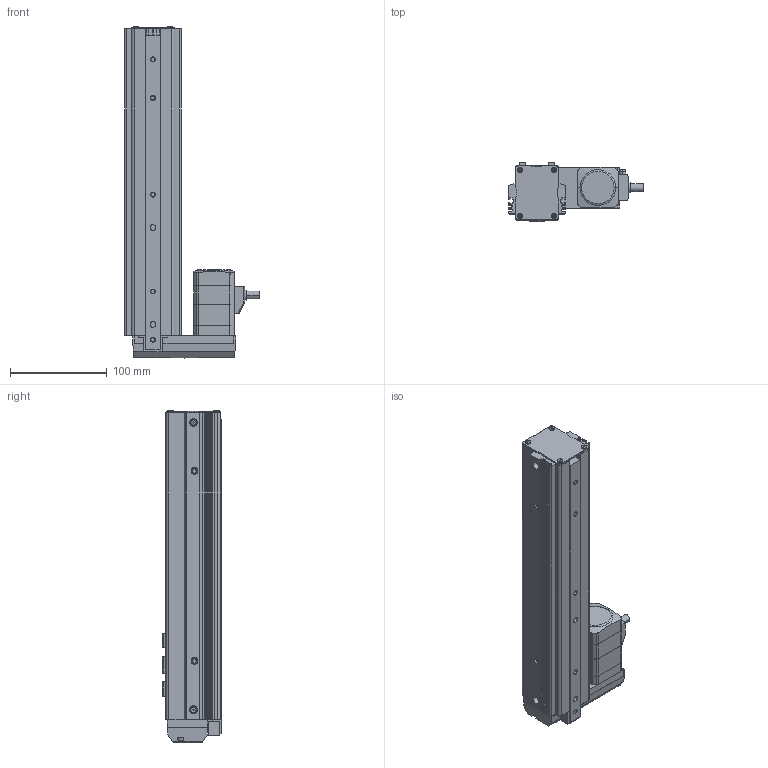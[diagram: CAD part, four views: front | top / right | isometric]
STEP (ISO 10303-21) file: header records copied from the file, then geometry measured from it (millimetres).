
FILE_DESCRIPTION (( 'STEP AP203' ), '1' );
FILE_NAME ('EASM4LYD020ARAC.step', '2013-10-10T07:59:32', ( 'om' ), ( 'Hewlett-Packard Company' ), 'SwSTEP 2.0', 'SolidWorks 2011', '' );
FILE_SCHEMA (( 'CONFIG_CONTROL_DESIGN' ));
Length unit declared in the file: millimetre
Products named in the file (4): EASM4LYD020ARAC_Table; EASM4LYD020ARAC_BASE; EASM4LYD020ARAC; EASM4LYD020ARAC_Motor
Assembly tree (3 placements, depth 2):
  EASM4LYD020ARAC
    EASM4LYD020ARAC_BASE
    EASM4LYD020ARAC_Table
    EASM4LYD020ARAC_Motor
Bounding box: 139.2 x 60 x 343.1 mm (x, y, z)
Volume: 716304.1 mm3; surface area: 218850.5 mm2
Topology: 3 solids, 13 shells, 972 faces, 2536 edges, 1649 vertices
Faces by surface type: plane 565, cylinder 341, cone 46, torus 16, bspline 4
Entity records: 30386 total; most frequent: CARTESIAN_POINT 5427, DIRECTION 5191, ORIENTED_EDGE 5040, EDGE_CURVE 2520, LINE 1733, VECTOR 1733, AXIS2_PLACEMENT_3D 1729, VERTEX_POINT 1649
